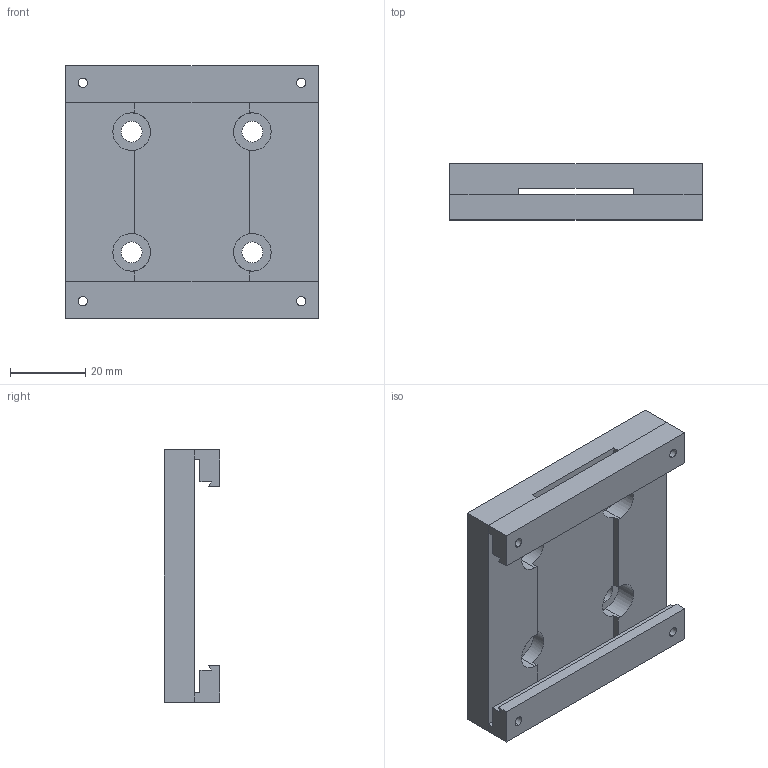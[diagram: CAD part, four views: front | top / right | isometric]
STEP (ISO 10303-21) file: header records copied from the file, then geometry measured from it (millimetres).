
FILE_DESCRIPTION (( 'STEP AP203' ), '1' );
FILE_NAME ('Montageplatte dL50 MDV 55.STEP', '2004-01-12T10:26:16', ( '' ), ( '' ), 'SwSTEP 2.0', 'SolidWorks 2003064', '' );
FILE_SCHEMA (( 'CONFIG_CONTROL_DESIGN' ));
Length unit declared in the file: millimetre
Products named in the file (1): Montageplatte dL50 MDV 55
Bounding box: 67 x 14.8 x 67 mm (x, y, z)
Volume: 37096.6 mm3; surface area: 16727.4 mm2
Topology: 1 solids, 1 shells, 82 faces, 224 edges, 144 vertices
Faces by surface type: plane 42, cylinder 40
Entity records: 2741 total; most frequent: DIRECTION 478, CARTESIAN_POINT 451, ORIENTED_EDGE 448, EDGE_CURVE 224, AXIS2_PLACEMENT_3D 171, VERTEX_POINT 144, LINE 136, VECTOR 136
